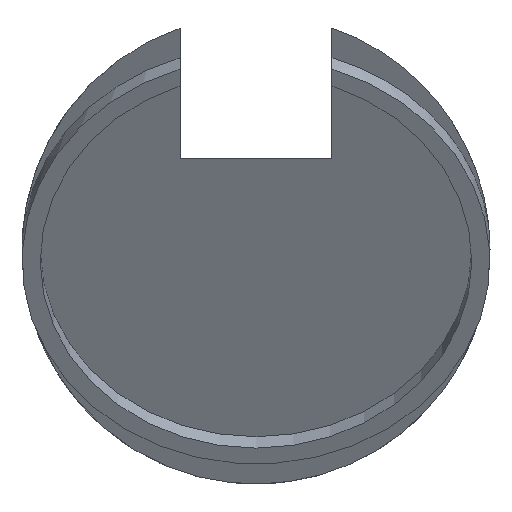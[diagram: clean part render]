
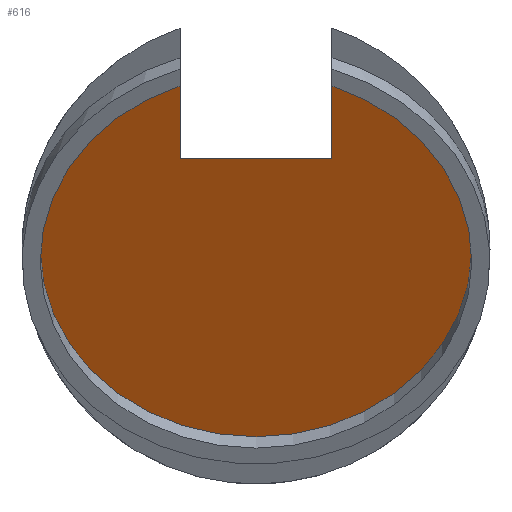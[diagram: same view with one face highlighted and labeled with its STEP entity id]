
A CAD part, top view. The second image highlights one B-rep face of the part: STEP entity #616.
In plain terms, the highlighted planar face has unit normal (0, -0.5, 0.866).
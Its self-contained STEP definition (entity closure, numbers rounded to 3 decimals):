
#72 = PLANE('',#73);
#73 = AXIS2_PLACEMENT_3D('',#74,#75,#76);
#74 = CARTESIAN_POINT('',(-10.,12.,-1.));
#75 = DIRECTION('',(1.,0.,0.));
#76 = DIRECTION('',(0.,0.,1.));
#222 = PLANE('',#223);
#223 = AXIS2_PLACEMENT_3D('',#224,#225,#226);
#224 = CARTESIAN_POINT('',(10.,12.,-1.));
#225 = DIRECTION('',(1.,0.,0.));
#226 = DIRECTION('',(0.,0.,1.));
#239 = VERTEX_POINT('',#240);
#240 = CARTESIAN_POINT('',(10.,12.,27.711));
#254 = PLANE('',#255);
#255 = AXIS2_PLACEMENT_3D('',#256,#257,#258);
#256 = CARTESIAN_POINT('',(-10.,12.,-1.));
#257 = DIRECTION('',(0.,1.,0.));
#258 = DIRECTION('',(0.,0.,1.));
#360 = VERTEX_POINT('',#361);
#361 = CARTESIAN_POINT('',(10.,23.02,34.073));
#374 = CYLINDRICAL_SURFACE('',#375,28.4);
#375 = AXIS2_PLACEMENT_3D('',#376,#377,#378);
#376 = CARTESIAN_POINT('',(0.,0.,
    20.782));
#377 = DIRECTION('',(-0.,0.5,-0.866));
#378 = DIRECTION('',(1.,0.,0.));
#385 = EDGE_CURVE('',#239,#360,#386,.T.);
#386 = SURFACE_CURVE('',#387,(#391,#397),.PCURVE_S1.);
#387 = LINE('',#388,#389);
#388 = CARTESIAN_POINT('',(10.,-43.517,-4.342));
#389 = VECTOR('',#390,1.);
#390 = DIRECTION('',(-0.,0.866,0.5));
#391 = PCURVE('',#222,#392);
#392 = DEFINITIONAL_REPRESENTATION('',(#393),#396);
#393 = B_SPLINE_CURVE_WITH_KNOTS('',1,(#394,#395),.UNSPECIFIED.,.F.,.F.,
  (2,2),(64.106,78.649),.PIECEWISE_BEZIER_KNOTS.);
#394 = CARTESIAN_POINT('',(28.711,0.));
#395 = CARTESIAN_POINT('',(35.982,-12.595));
#396 = ( GEOMETRIC_REPRESENTATION_CONTEXT(2) 
PARAMETRIC_REPRESENTATION_CONTEXT() REPRESENTATION_CONTEXT('2D SPACE',''
  ) );
#397 = PCURVE('',#398,#403);
#398 = PLANE('',#399);
#399 = AXIS2_PLACEMENT_3D('',#400,#401,#402);
#400 = CARTESIAN_POINT('',(-100.,-86.603,-29.218));
#401 = DIRECTION('',(0.,-0.5,0.866));
#402 = DIRECTION('',(1.,0.,0.));
#403 = DEFINITIONAL_REPRESENTATION('',(#404),#407);
#404 = B_SPLINE_CURVE_WITH_KNOTS('',1,(#405,#406),.UNSPECIFIED.,.F.,.F.,
  (2,2),(64.106,78.649),.PIECEWISE_BEZIER_KNOTS.);
#405 = CARTESIAN_POINT('',(110.,113.856));
#406 = CARTESIAN_POINT('',(110.,128.4));
#407 = ( GEOMETRIC_REPRESENTATION_CONTEXT(2) 
PARAMETRIC_REPRESENTATION_CONTEXT() REPRESENTATION_CONTEXT('2D SPACE',''
  ) );
#572 = EDGE_CURVE('',#573,#360,#575,.T.);
#573 = VERTEX_POINT('',#574);
#574 = CARTESIAN_POINT('',(-10.,23.02,34.073));
#575 = SURFACE_CURVE('',#576,(#581,#588),.PCURVE_S1.);
#576 = CIRCLE('',#577,28.4);
#577 = AXIS2_PLACEMENT_3D('',#578,#579,#580);
#578 = CARTESIAN_POINT('',(0.,0.,
    20.782));
#579 = DIRECTION('',(0.,-0.5,0.866));
#580 = DIRECTION('',(-0.352,0.811,0.468));
#581 = PCURVE('',#374,#582);
#582 = DEFINITIONAL_REPRESENTATION('',(#583),#587);
#583 = LINE('',#584,#585);
#584 = CARTESIAN_POINT('',(-1.931,0.));
#585 = VECTOR('',#586,1.);
#586 = DIRECTION('',(-1.,0.));
#587 = ( GEOMETRIC_REPRESENTATION_CONTEXT(2) 
PARAMETRIC_REPRESENTATION_CONTEXT() REPRESENTATION_CONTEXT('2D SPACE',''
  ) );
#588 = PCURVE('',#398,#589);
#589 = DEFINITIONAL_REPRESENTATION('',(#590),#594);
#590 = CIRCLE('',#591,28.4);
#591 = AXIS2_PLACEMENT_2D('',#592,#593);
#592 = CARTESIAN_POINT('',(100.,100.));
#593 = DIRECTION('',(-0.352,0.936));
#594 = ( GEOMETRIC_REPRESENTATION_CONTEXT(2) 
PARAMETRIC_REPRESENTATION_CONTEXT() REPRESENTATION_CONTEXT('2D SPACE',''
  ) );
#616 = ADVANCED_FACE('',(#617),#398,.T.);
#617 = FACE_BOUND('',#618,.T.);
#618 = EDGE_LOOP('',(#619,#620,#621,#642));
#619 = ORIENTED_EDGE('',*,*,#572,.T.);
#620 = ORIENTED_EDGE('',*,*,#385,.F.);
#621 = ORIENTED_EDGE('',*,*,#622,.T.);
#622 = EDGE_CURVE('',#239,#623,#625,.T.);
#623 = VERTEX_POINT('',#624);
#624 = CARTESIAN_POINT('',(-10.,12.,27.711));
#625 = SURFACE_CURVE('',#626,(#630,#636),.PCURVE_S1.);
#626 = LINE('',#627,#628);
#627 = CARTESIAN_POINT('',(-55.,12.,27.711));
#628 = VECTOR('',#629,1.);
#629 = DIRECTION('',(-1.,0.,0.));
#630 = PCURVE('',#398,#631);
#631 = DEFINITIONAL_REPRESENTATION('',(#632),#635);
#632 = B_SPLINE_CURVE_WITH_KNOTS('',1,(#633,#634),.UNSPECIFIED.,.F.,.F.,
  (2,2),(-65.,-45.),.PIECEWISE_BEZIER_KNOTS.);
#633 = CARTESIAN_POINT('',(110.,113.856));
#634 = CARTESIAN_POINT('',(90.,113.856));
#635 = ( GEOMETRIC_REPRESENTATION_CONTEXT(2) 
PARAMETRIC_REPRESENTATION_CONTEXT() REPRESENTATION_CONTEXT('2D SPACE',''
  ) );
#636 = PCURVE('',#254,#637);
#637 = DEFINITIONAL_REPRESENTATION('',(#638),#641);
#638 = B_SPLINE_CURVE_WITH_KNOTS('',1,(#639,#640),.UNSPECIFIED.,.F.,.F.,
  (2,2),(-65.,-45.),.PIECEWISE_BEZIER_KNOTS.);
#639 = CARTESIAN_POINT('',(28.711,20.));
#640 = CARTESIAN_POINT('',(28.711,0.));
#641 = ( GEOMETRIC_REPRESENTATION_CONTEXT(2) 
PARAMETRIC_REPRESENTATION_CONTEXT() REPRESENTATION_CONTEXT('2D SPACE',''
  ) );
#642 = ORIENTED_EDGE('',*,*,#643,.T.);
#643 = EDGE_CURVE('',#623,#573,#644,.T.);
#644 = SURFACE_CURVE('',#645,(#649,#655),.PCURVE_S1.);
#645 = LINE('',#646,#647);
#646 = CARTESIAN_POINT('',(-10.,-43.517,-4.342));
#647 = VECTOR('',#648,1.);
#648 = DIRECTION('',(-0.,0.866,0.5));
#649 = PCURVE('',#398,#650);
#650 = DEFINITIONAL_REPRESENTATION('',(#651),#654);
#651 = B_SPLINE_CURVE_WITH_KNOTS('',1,(#652,#653),.UNSPECIFIED.,.F.,.F.,
  (2,2),(64.106,78.649),.PIECEWISE_BEZIER_KNOTS.);
#652 = CARTESIAN_POINT('',(90.,113.856));
#653 = CARTESIAN_POINT('',(90.,128.4));
#654 = ( GEOMETRIC_REPRESENTATION_CONTEXT(2) 
PARAMETRIC_REPRESENTATION_CONTEXT() REPRESENTATION_CONTEXT('2D SPACE',''
  ) );
#655 = PCURVE('',#72,#656);
#656 = DEFINITIONAL_REPRESENTATION('',(#657),#660);
#657 = B_SPLINE_CURVE_WITH_KNOTS('',1,(#658,#659),.UNSPECIFIED.,.F.,.F.,
  (2,2),(64.106,78.649),.PIECEWISE_BEZIER_KNOTS.);
#658 = CARTESIAN_POINT('',(28.711,0.));
#659 = CARTESIAN_POINT('',(35.982,-12.595));
#660 = ( GEOMETRIC_REPRESENTATION_CONTEXT(2) 
PARAMETRIC_REPRESENTATION_CONTEXT() REPRESENTATION_CONTEXT('2D SPACE',''
  ) );
